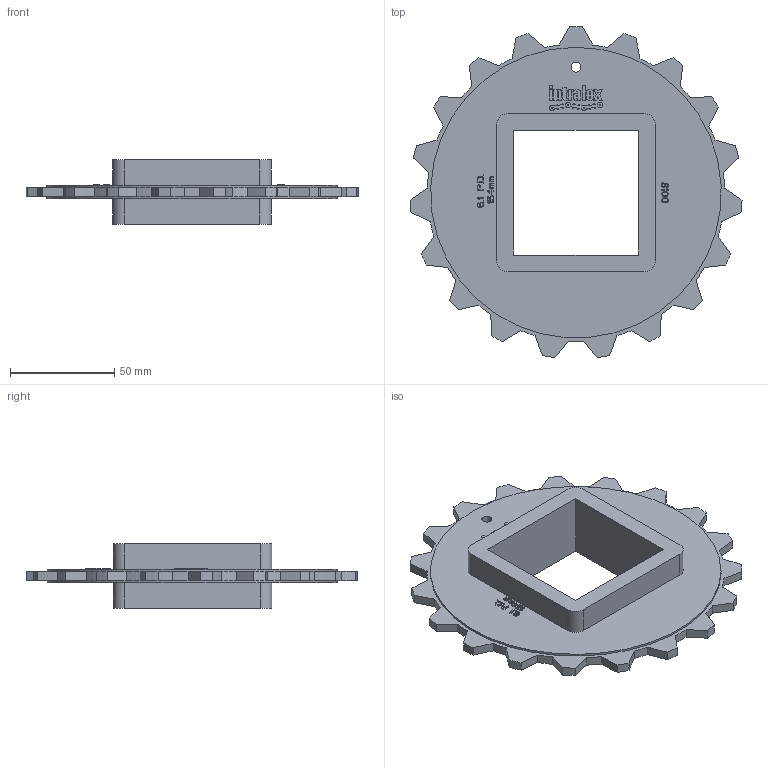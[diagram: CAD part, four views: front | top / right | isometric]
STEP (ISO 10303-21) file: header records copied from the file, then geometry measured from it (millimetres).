
FILE_DESCRIPTION((''),'2;1');
FILE_NAME('S100_SPROCKET_61X25_60_SQ','2008-12-11T',('jmumphre'),(''),'PRO/ENGINEER BY PARAMETRIC TECHNOLOGY CORPORATION, 2008150','PRO/ENGINEER BY PARAMETRIC TECHNOLOGY CORPORATION, 2008150','');
FILE_SCHEMA(('CONFIG_CONTROL_DESIGN'));
Length unit declared in the file: inch
Products named in the file (1): S100_SPROCKET_61X25_60_SQ
Bounding box: 159.55 x 159.06 x 30.99 mm (x, y, z)
Volume: 139035.6 mm3; surface area: 47090.5 mm2
Topology: 1 solids, 1 shells, 758 faces, 2142 edges, 1428 vertices
Faces by surface type: plane 618, cylinder 140
Entity records: 24334 total; most frequent: CARTESIAN_POINT 4328, ORIENTED_EDGE 4284, DIRECTION 3938, EDGE_CURVE 2142, VECTOR 1862, LINE 1862, VERTEX_POINT 1428, AXIS2_PLACEMENT_3D 1038
